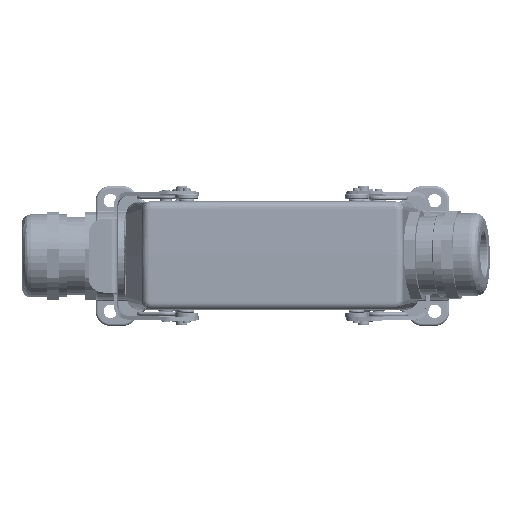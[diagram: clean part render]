
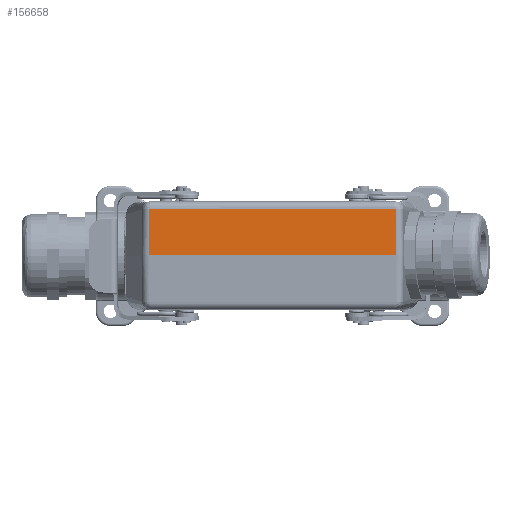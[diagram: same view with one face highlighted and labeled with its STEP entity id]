
A CAD part, top view. The second image highlights one B-rep face of the part: STEP entity #156658.
In plain terms, the highlighted planar face has unit normal (0, 0.018, 1).
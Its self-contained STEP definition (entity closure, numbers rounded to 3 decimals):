
#7917 = CARTESIAN_POINT ( 'NONE',  ( -52.947, 0., 60. ) ) ;
#11220 = CARTESIAN_POINT ( 'NONE',  ( -50.021, 19.052, 59.667 ) ) ;
#16205 = B_SPLINE_CURVE_WITH_KNOTS ( 'NONE', 3,
 ( #119427, #166101, #240873, #189417 ),
 .UNSPECIFIED., .F., .F.,
 ( 4, 4 ),
 ( 0., 1. ),
 .UNSPECIFIED. ) ;
#19275 = CARTESIAN_POINT ( 'NONE',  ( -52.947, 19.052, 59.667 ) ) ;
#31284 = CARTESIAN_POINT ( 'NONE',  ( -50.152, 18.957, 59.669 ) ) ;
#39279 = LINE ( 'NONE', #19275, #320320 ) ;
#50063 = EDGE_CURVE ( 'NONE', #307056, #132782, #235596, .T. ) ;
#56204 = CARTESIAN_POINT ( 'NONE',  ( -50.055, 19.052, 59.667 ) ) ;
#56702 = CARTESIAN_POINT ( 'NONE',  ( -50.021, 19.052, 59.667 ) ) ;
#58281 = CARTESIAN_POINT ( 'NONE',  ( 50.021, 19.052, 59.667 ) ) ;
#59070 = CARTESIAN_POINT ( 'NONE',  ( -52.947, 0., 60. ) ) ;
#64763 = VERTEX_POINT ( 'NONE', #188539 ) ;
#64968 = CARTESIAN_POINT ( 'NONE',  ( -50.43, 0., 60. ) ) ;
#74338 = EDGE_CURVE ( 'NONE', #113484, #124941, #255225, .T. ) ;
#76334 = EDGE_CURVE ( 'NONE', #132782, #113484, #16205, .T. ) ;
#84007 = FACE_OUTER_BOUND ( 'NONE', #232981, .T. ) ;
#86001 = CARTESIAN_POINT ( 'NONE',  ( -50.153, 18.923, 59.67 ) ) ;
#99036 = CARTESIAN_POINT ( 'NONE',  ( 50.021, 19.052, 59.667 ) ) ;
#102836 = B_SPLINE_CURVE_WITH_KNOTS ( 'NONE', 3,
 ( #203595, #300029, #130381, #303281 ),
 .UNSPECIFIED., .F., .F.,
 ( 4, 4 ),
 ( 0., 1. ),
 .UNSPECIFIED. ) ;
#104576 = EDGE_CURVE ( 'NONE', #64763, #307056, #102836, .T. ) ;
#110863 = DIRECTION ( 'NONE',  ( -1., 0., 0. ) ) ;
#113484 = VERTEX_POINT ( 'NONE', #260151 ) ;
#117338 = DIRECTION ( 'NONE',  ( -1., 0., 0. ) ) ;
#119427 = CARTESIAN_POINT ( 'NONE',  ( -50.43, 0., 60. ) ) ;
#119501 = VERTEX_POINT ( 'NONE', #58281 ) ;
#122327 = CARTESIAN_POINT ( 'NONE',  ( 50.138, 18.99, 59.669 ) ) ;
#124941 = VERTEX_POINT ( 'NONE', #56702 ) ;
#130381 = CARTESIAN_POINT ( 'NONE',  ( 50.338, 6.308, 59.89 ) ) ;
#130418 = AXIS2_PLACEMENT_3D ( 'NONE', #59070, #191552, #304306 ) ;
#132782 = VERTEX_POINT ( 'NONE', #64968 ) ;
#140217 = ORIENTED_EDGE ( 'NONE', *, *, #50063, .F. ) ;
#146602 = CARTESIAN_POINT ( 'NONE',  ( 50.43, 0., 60. ) ) ;
#147337 = ORIENTED_EDGE ( 'NONE', *, *, #246795, .T. ) ;
#153884 = CARTESIAN_POINT ( 'NONE',  ( 50.153, 18.923, 59.67 ) ) ;
#156658 = ADVANCED_FACE ( 'NONE', ( #84007 ), #185428, .T. ) ;
#161040 = ORIENTED_EDGE ( 'NONE', *, *, #104576, .F. ) ;
#166101 = CARTESIAN_POINT ( 'NONE',  ( -50.338, 6.308, 59.89 ) ) ;
#179914 = EDGE_CURVE ( 'NONE', #119501, #124941, #39279, .T. ) ;
#185428 = PLANE ( 'NONE',  #130418 ) ;
#188539 = CARTESIAN_POINT ( 'NONE',  ( 50.153, 18.923, 59.67 ) ) ;
#189417 = CARTESIAN_POINT ( 'NONE',  ( -50.153, 18.923, 59.67 ) ) ;
#191552 = DIRECTION ( 'NONE',  ( 0., 0.017, 1. ) ) ;
#196833 = ORIENTED_EDGE ( 'NONE', *, *, #74338, .F. ) ;
#202101 = CARTESIAN_POINT ( 'NONE',  ( 50.088, 19.04, 59.668 ) ) ;
#203595 = CARTESIAN_POINT ( 'NONE',  ( 50.153, 18.923, 59.67 ) ) ;
#205729 = B_SPLINE_CURVE_WITH_KNOTS ( 'NONE', 3,
 ( #153884, #255172, #122327, #202101, #300179, #99036 ),
 .UNSPECIFIED., .F., .F.,
 ( 4, 2, 4 ),
 ( 0., 0.5, 1. ),
 .UNSPECIFIED. ) ;
#232981 = EDGE_LOOP ( 'NONE', ( #240068, #196833, #297982, #140217, #161040, #147337 ) ) ;
#235596 = LINE ( 'NONE', #7917, #249056 ) ;
#240068 = ORIENTED_EDGE ( 'NONE', *, *, #179914, .T. ) ;
#240533 = CARTESIAN_POINT ( 'NONE',  ( -50.089, 19.039, 59.668 ) ) ;
#240873 = CARTESIAN_POINT ( 'NONE',  ( -50.245, 12.615, 59.78 ) ) ;
#246795 = EDGE_CURVE ( 'NONE', #64763, #119501, #205729, .T. ) ;
#249056 = VECTOR ( 'NONE', #110863, 1000. ) ;
#255172 = CARTESIAN_POINT ( 'NONE',  ( 50.152, 18.958, 59.669 ) ) ;
#255225 = B_SPLINE_CURVE_WITH_KNOTS ( 'NONE', 3,
 ( #86001, #31284, #315299, #240533, #56204, #11220 ),
 .UNSPECIFIED., .F., .F.,
 ( 4, 2, 4 ),
 ( 0., 0.5, 1. ),
 .UNSPECIFIED. ) ;
#260151 = CARTESIAN_POINT ( 'NONE',  ( -50.153, 18.923, 59.67 ) ) ;
#297982 = ORIENTED_EDGE ( 'NONE', *, *, #76334, .F. ) ;
#300029 = CARTESIAN_POINT ( 'NONE',  ( 50.245, 12.615, 59.78 ) ) ;
#300179 = CARTESIAN_POINT ( 'NONE',  ( 50.057, 19.052, 59.667 ) ) ;
#303281 = CARTESIAN_POINT ( 'NONE',  ( 50.43, 0., 60. ) ) ;
#304306 = DIRECTION ( 'NONE',  ( 1., 0., 0. ) ) ;
#307056 = VERTEX_POINT ( 'NONE', #146602 ) ;
#315299 = CARTESIAN_POINT ( 'NONE',  ( -50.138, 18.991, 59.669 ) ) ;
#320320 = VECTOR ( 'NONE', #117338, 1000. ) ;
